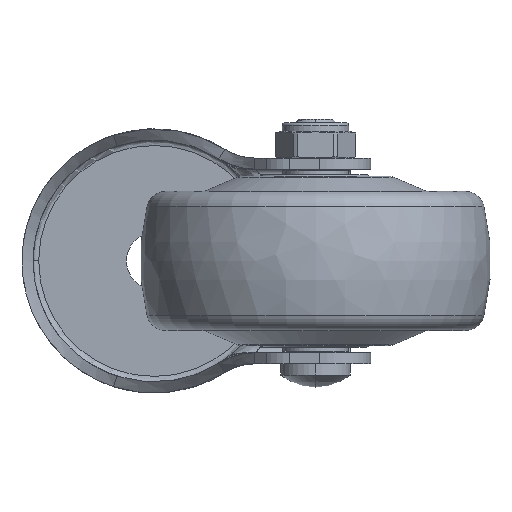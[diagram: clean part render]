
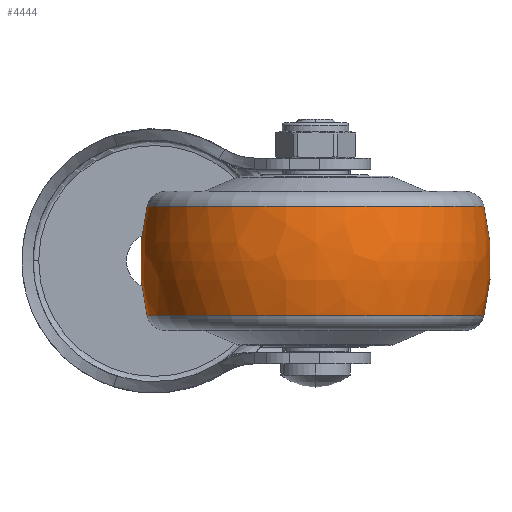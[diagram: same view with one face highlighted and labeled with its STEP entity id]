
A CAD part, front view. The second image highlights one B-rep face of the part: STEP entity #4444.
In plain terms, the highlighted free-form (B-spline) face has degree [3, 3] with [7, 4] control points.
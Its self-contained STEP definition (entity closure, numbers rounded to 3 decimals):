
#3930=CARTESIAN_POINT('',(0.,-8.5,0.));
#3931=DIRECTION('',(0.,0.,1.));
#3932=DIRECTION('',(0.247,0.969,0.));
#3933=AXIS2_PLACEMENT_3D('',#3930,#3931,#3932);
#3935=CARTESIAN_POINT('',(0.,8.5,0.));
#3936=DIRECTION('',(0.,0.,-1.));
#3937=DIRECTION('',(0.247,-0.969,0.));
#3938=AXIS2_PLACEMENT_3D('',#3935,#3936,#3937);
#3940=CARTESIAN_POINT('',(9.863,0.,0.));
#3941=DIRECTION('',(-1.,0.,0.));
#3942=DIRECTION('',(0.,1.,0.));
#3943=AXIS2_PLACEMENT_3D('',#3940,#3941,#3942);
#3965=CARTESIAN_POINT('',(-9.863,0.,0.));
#3966=DIRECTION('',(-1.,0.,0.));
#3967=DIRECTION('',(0.,1.,0.));
#3968=AXIS2_PLACEMENT_3D('',#3965,#3966,#3967);
#4095=CARTESIAN_POINT('',(9.863,30.265,0.));
#4097=VERTEX_POINT('',#4095);
#4098=CARTESIAN_POINT('',(-9.863,30.265,0.));
#4099=VERTEX_POINT('',#4098);
#4135=CARTESIAN_POINT('',(9.863,-30.265,0.));
#4137=VERTEX_POINT('',#4135);
#4138=CARTESIAN_POINT('',(-9.863,-30.265,0.));
#4139=VERTEX_POINT('',#4138);
#4406=CARTESIAN_POINT('',(-10.249,-30.105,
1.894));
#4407=CARTESIAN_POINT('',(-3.494,-31.892,
2.006));
#4408=CARTESIAN_POINT('',(3.494,-31.892,2.006));
#4409=CARTESIAN_POINT('',(10.249,-30.105,1.894));
#4410=CARTESIAN_POINT('',(-10.249,-31.271,
-16.633));
#4411=CARTESIAN_POINT('',(-3.494,-33.127,
-17.62));
#4412=CARTESIAN_POINT('',(3.494,-33.127,
-17.62));
#4413=CARTESIAN_POINT('',(10.249,-31.271,
-16.633));
#4414=CARTESIAN_POINT('',(-10.249,-18.563,
-30.165));
#4415=CARTESIAN_POINT('',(-3.494,-19.665,
-31.955));
#4416=CARTESIAN_POINT('',(3.494,-19.665,
-31.955));
#4417=CARTESIAN_POINT('',(10.249,-18.563,
-30.165));
#4418=CARTESIAN_POINT('',(-10.249,0.,-30.165));
#4419=CARTESIAN_POINT('',(-3.494,0.,-31.955));
#4420=CARTESIAN_POINT('',(3.494,0.,-31.955));
#4421=CARTESIAN_POINT('',(10.249,0.,-30.165));
#4422=CARTESIAN_POINT('',(-10.249,18.563,
-30.165));
#4423=CARTESIAN_POINT('',(-3.494,19.665,
-31.955));
#4424=CARTESIAN_POINT('',(3.494,19.665,-31.955));
#4425=CARTESIAN_POINT('',(10.249,18.563,-30.165));
#4426=CARTESIAN_POINT('',(-10.249,31.271,
-16.633));
#4427=CARTESIAN_POINT('',(-3.494,33.127,
-17.62));
#4428=CARTESIAN_POINT('',(3.494,33.127,-17.62));
#4429=CARTESIAN_POINT('',(10.249,31.271,-16.633));
#4430=CARTESIAN_POINT('',(-10.249,30.105,1.894));
#4431=CARTESIAN_POINT('',(-3.494,31.892,2.006));
#4432=CARTESIAN_POINT('',(3.494,31.892,2.006));
#4433=CARTESIAN_POINT('',(10.249,30.105,1.894));
#4434=(BOUNDED_SURFACE()B_SPLINE_SURFACE(3,3,((#4406,#4407,#4408,#4409),(#4410,
#4411,#4412,#4413),(#4414,#4415,#4416,#4417),(#4418,#4419,#4420,#4421),(#4422,
#4423,#4424,#4425),(#4426,#4427,#4428,#4429),(#4430,#4431,#4432,#4433)),
.UNSPECIFIED.,.F.,.F.,.F.)B_SPLINE_SURFACE_WITH_KNOTS((4,3,4),(4,4),(0.,1.,
2.),(0.,1.),.UNSPECIFIED.)GEOMETRIC_REPRESENTATION_ITEM()RATIONAL_B_SPLINE_SURFACE(((1.207,1.181,1.181,1.207),(
0.953,0.932,0.932,0.953),(
0.953,0.932,0.932,0.953),(
1.207,1.181,1.181,1.207),(
0.953,0.932,0.932,0.953),(
0.953,0.932,0.932,0.953),(
1.207,1.181,1.181,1.207)))REPRESENTATION_ITEM('')SURFACE());
#4436=ORIENTED_EDGE('',*,*,#4435,.T.);
#4438=ORIENTED_EDGE('',*,*,#4437,.T.);
#4440=ORIENTED_EDGE('',*,*,#4439,.F.);
#4441=ORIENTED_EDGE('',*,*,#4399,.F.);
#4442=EDGE_LOOP('',(#4436,#4438,#4440,#4441));
#4443=FACE_OUTER_BOUND('',#4442,.F.);
#3934=CIRCLE('',#3933,40.);
#3939=CIRCLE('',#3938,40.);
#3944=CIRCLE('',#3943,30.265);
#3969=CIRCLE('',#3968,30.265);
#4399=EDGE_CURVE('',#4097,#4137,#3944,.T.);
#4435=EDGE_CURVE('',#4097,#4099,#3934,.T.);
#4437=EDGE_CURVE('',#4099,#4139,#3969,.T.);
#4439=EDGE_CURVE('',#4137,#4139,#3939,.T.);
#4444=ADVANCED_FACE('',(#4443),#4434,.T.);
